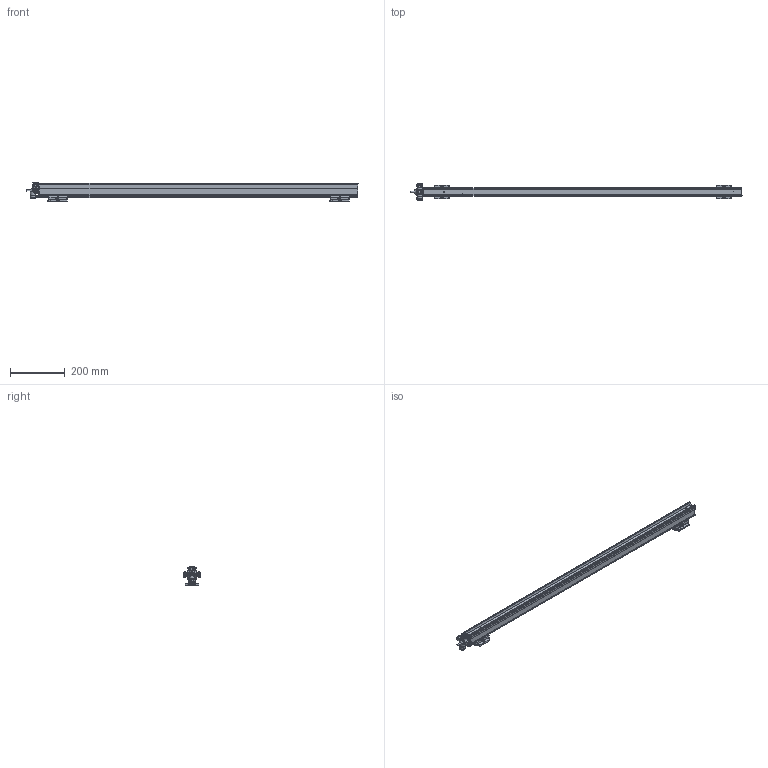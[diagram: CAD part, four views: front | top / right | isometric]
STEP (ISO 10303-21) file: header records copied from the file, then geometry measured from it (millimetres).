
FILE_DESCRIPTION(/* description */ (''),/* implementation_level */ '2;1');
FILE_NAME(/* name */ 'PERFORMAXEASYEX_0990_3D_GB',/* time_stamp */ '2017-05-31T09:47:43+02:00',/* author */ (''),/* organization */ (''),/* preprocessor_version */ 'ST-DEVELOPER v15.7',/* originating_system */ 'HiCAD 2015 2002.1 Build 408',/* authorisation */ '');
FILE_SCHEMA (('AUTOMOTIVE_DESIGN { 1 0 10303 214 1 1 1 1 }'));
Length unit declared in the file: millimetre
Products named in the file (57): Root; -_Performax (IQ) Easy Ex 0990 eff (Hybrid + Speed); -_LED; -_PROFILE; -_POTTING; -_CAP DE; -_CAP CE; -_CABLE; -_PIN; -_COVER; 4532000100_Mounting bracket bars; -_Side piece; -_Slide piece; -_Bracket small; DIN 13-M3; DIN 76-M3; 2047507823_PE connection; DIN 916-M4x20-45H_Set screws; GEWINDE; ISO 8738-4-160 HV_Washers for studs; ISO 4032-M4-10_Hexagon nuts; DIN 127-A 4-FSt_Washers; 2047493713_Cable exits; -_Exit K; -_Clip; -_Gland body; -_Exit S; -_Exit Q; -_Washer ø20mm, 5mm thick for corr. conduit (exit
 Q); -_Exit I; -_Exit U; -_Exit A; Thread_2
Assembly tree (56 placements, depth 5):
  Root
    -_Performax (IQ) Easy Ex 0990 eff (Hybrid + Speed)
      -_LED
      -_PROFILE
      -_POTTING
      -_CAP DE
      -_CAP CE
      -_CABLE
      -_PIN
      -_PIN
      -_COVER
      4532000100_Mounting bracket bars
        -_Side piece
        -_Side piece
        -_Slide piece
        -_Bracket small
          DIN 13-M3
          DIN 13-M3
          DIN 76-M3
          DIN 76-M3
      4532000100_Mounting bracket bars
        -_Side piece
        -_Side piece
        -_Slide piece
        -_Bracket small
          DIN 13-M3
          DIN 13-M3
          DIN 76-M3
          DIN 76-M3
      2047507823_PE connection
        DIN 916-M4x20-45H_Set screws
          GEWINDE
        ISO 8738-4-160 HV_Washers for studs
        ISO 4032-M4-10_Hexagon nuts
          GEWINDE
        DIN 127-A 4-FSt_Washers
        ISO 4032-M4-10_Hexagon nuts
          GEWINDE
      2047493713_Cable exits
        -_Exit K
          -_Clip
          -_Gland body
        -_Exit S
          -_Clip
          -_Gland body
        -_Exit Q
          -_Clip
          -_Washer ø20mm, 5mm thick for corr. conduit (exit
 Q)
          -_Gland body
        -_Exit I
          -_Clip
          -_Gland body
        -_Exit U
          -_Clip
          -_Gland body
        -_Exit A
          Thread_2
Bounding box: 1212.4 x 58.79 x 68.9 mm (x, y, z)
Volume: 1455210.8 mm3; surface area: 429192.9 mm2
Topology: 47 solids, 53 shells, 1941 faces, 5010 edges, 3074 vertices
Faces by surface type: plane 913, cylinder 739, torus 91, sphere 87, bspline 64, cone 47
Full cylindrical faces by diameter (mm): 2.387 x8, 3 x16, 3.141 x4, 4 x5, 4.3 x1, 5.4 x2, 5.5 x10, 8 x2, 11.3 x4, 12.5 x4, 13 x1, 14.6 x5, 15.1 x5, 18.4 x4, 20 x7, 20.2 x4
Entity records: 107117 total; most frequent: CARTESIAN_POINT 22020, DIRECTION 10074, PRESENTATION_STYLE_ASSIGNMENT 9495, OVER_RIDING_STYLED_ITEM 9449, DRAUGHTING_PRE_DEFINED_CURVE_FONT 9436, CURVE_STYLE 9436, ORIENTED_EDGE 9436, EDGE_CURVE 4718
